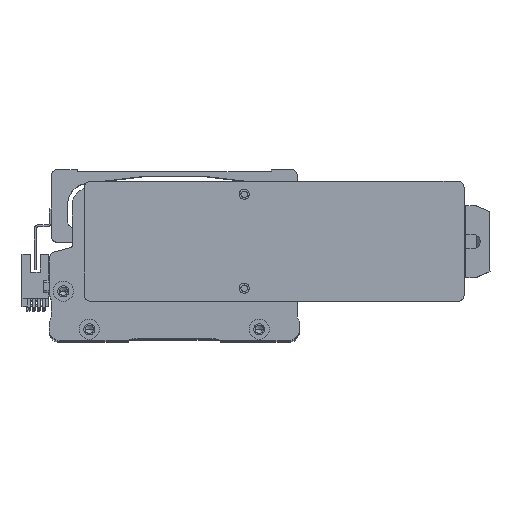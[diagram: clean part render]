
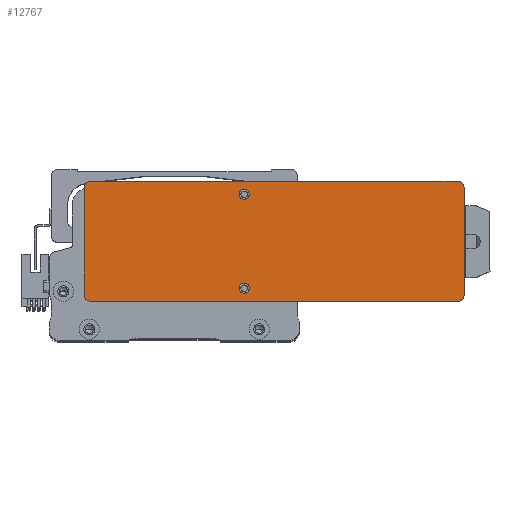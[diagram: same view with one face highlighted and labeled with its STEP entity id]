
A CAD part, top view. The second image highlights one B-rep face of the part: STEP entity #12767.
In plain terms, the highlighted planar face has unit normal (0, 0, 1) as drawn and (0, 0, -1) by its records, which use the part's own axes.
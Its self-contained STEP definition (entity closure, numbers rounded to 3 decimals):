
#461 = DIRECTION ( 'NONE',  ( 0., 0., -1. ) ) ;
#639 = ORIENTED_EDGE ( 'NONE', *, *, #70633, .T. ) ;
#2845 = DIRECTION ( 'NONE',  ( 0., 0., -1. ) ) ;
#2888 = DIRECTION ( 'NONE',  ( 0., 0., -1. ) ) ;
#5225 = CIRCLE ( 'NONE', #78637, 2.5 ) ;
#5701 = FACE_OUTER_BOUND ( 'NONE', #39171, .T. ) ;
#6111 = VERTEX_POINT ( 'NONE', #49467 ) ;
#6558 = DIRECTION ( 'NONE',  ( 0., 1., 0. ) ) ;
#7228 = EDGE_CURVE ( 'NONE', #48599, #68875, #5225, .T. ) ;
#8513 = DIRECTION ( 'NONE',  ( 0., 0., 1. ) ) ;
#9581 = VECTOR ( 'NONE', #6558, 1000. ) ;
#9917 = AXIS2_PLACEMENT_3D ( 'NONE', #48270, #11852, #54409 ) ;
#10950 = DIRECTION ( 'NONE',  ( 1., 0., 0. ) ) ;
#11599 = ORIENTED_EDGE ( 'NONE', *, *, #40316, .F. ) ;
#11852 = DIRECTION ( 'NONE',  ( 0., 0., -1. ) ) ;
#12516 = CARTESIAN_POINT ( 'NONE',  ( 95., 27., 0. ) ) ;
#12767 = ADVANCED_FACE ( 'NONE', ( #21786, #5701, #54203 ), #32641, .F. ) ;
#12774 = VECTOR ( 'NONE', #10950, 1000. ) ;
#15240 = ORIENTED_EDGE ( 'NONE', *, *, #61175, .F. ) ;
#15245 = CIRCLE ( 'NONE', #47394, 3. ) ;
#15391 = CIRCLE ( 'NONE', #28404, 2.5 ) ;
#15535 = CARTESIAN_POINT ( 'NONE',  ( -15., 23.5, 0. ) ) ;
#17605 = VECTOR ( 'NONE', #50033, 1000. ) ;
#20453 = CARTESIAN_POINT ( 'NONE',  ( 0., 0., 0. ) ) ;
#21586 = DIRECTION ( 'NONE',  ( -1., 0., 0. ) ) ;
#21786 = FACE_BOUND ( 'NONE', #39158, .T. ) ;
#21889 = CARTESIAN_POINT ( 'NONE',  ( 95., 30., 0. ) ) ;
#22412 = EDGE_CURVE ( 'NONE', #35638, #23808, #61278, .T. ) ;
#22814 = ORIENTED_EDGE ( 'NONE', *, *, #7228, .F. ) ;
#23536 = ORIENTED_EDGE ( 'NONE', *, *, #54452, .T. ) ;
#23808 = VERTEX_POINT ( 'NONE', #73531 ) ;
#24039 = EDGE_CURVE ( 'NONE', #37557, #45572, #53276, .T. ) ;
#24330 = ORIENTED_EDGE ( 'NONE', *, *, #35613, .F. ) ;
#24568 = DIRECTION ( 'NONE',  ( 0., 0., -1. ) ) ;
#25423 = EDGE_CURVE ( 'NONE', #45805, #37979, #58063, .T. ) ;
#25459 = AXIS2_PLACEMENT_3D ( 'NONE', #39225, #2845, #45325 ) ;
#28404 = AXIS2_PLACEMENT_3D ( 'NONE', #39286, #2888, #45380 ) ;
#30752 = ORIENTED_EDGE ( 'NONE', *, *, #25423, .F. ) ;
#30820 = CARTESIAN_POINT ( 'NONE',  ( -92., -27., 0. ) ) ;
#31148 = CARTESIAN_POINT ( 'NONE',  ( -17.5, 23.5, 0. ) ) ;
#31196 = ORIENTED_EDGE ( 'NONE', *, *, #22412, .F. ) ;
#31285 = CIRCLE ( 'NONE', #68738, 3. ) ;
#31614 = CARTESIAN_POINT ( 'NONE',  ( -95., -30., 0. ) ) ;
#31843 = VERTEX_POINT ( 'NONE', #74939 ) ;
#32500 = DIRECTION ( 'NONE',  ( 0., 0., -1. ) ) ;
#32641 = PLANE ( 'NONE',  #63469 ) ;
#33589 = EDGE_CURVE ( 'NONE', #45572, #37557, #15391, .T. ) ;
#35613 = EDGE_CURVE ( 'NONE', #6111, #76987, #53705, .T. ) ;
#35638 = VERTEX_POINT ( 'NONE', #46609 ) ;
#36696 = CIRCLE ( 'NONE', #9917, 2.5 ) ;
#36849 = CARTESIAN_POINT ( 'NONE',  ( -15., -23.5, 0. ) ) ;
#36943 = DIRECTION ( 'NONE',  ( 1., 0., 0. ) ) ;
#37305 = AXIS2_PLACEMENT_3D ( 'NONE', #15535, #58018, #21586 ) ;
#37557 = VERTEX_POINT ( 'NONE', #31148 ) ;
#37979 = VERTEX_POINT ( 'NONE', #12516 ) ;
#39158 = EDGE_LOOP ( 'NONE', ( #63058, #66422 ) ) ;
#39171 = EDGE_LOOP ( 'NONE', ( #30752, #639, #31196, #76117, #11599, #23536, #24330, #75586 ) ) ;
#39225 = CARTESIAN_POINT ( 'NONE',  ( 92., 27., 0. ) ) ;
#39286 = CARTESIAN_POINT ( 'NONE',  ( -15., 23.5, 0. ) ) ;
#40243 = DIRECTION ( 'NONE',  ( -1., 0., 0. ) ) ;
#40316 = EDGE_CURVE ( 'NONE', #53401, #31843, #49950, .T. ) ;
#41246 = CARTESIAN_POINT ( 'NONE',  ( 95., -30., 0. ) ) ;
#42027 = AXIS2_PLACEMENT_3D ( 'NONE', #61060, #24568, #67215 ) ;
#42979 = DIRECTION ( 'NONE',  ( -1., 0., 0. ) ) ;
#44942 = CARTESIAN_POINT ( 'NONE',  ( -12.5, 23.5, 0. ) ) ;
#45325 = DIRECTION ( 'NONE',  ( 1., 0., 0. ) ) ;
#45380 = DIRECTION ( 'NONE',  ( -1., 0., 0. ) ) ;
#45572 = VERTEX_POINT ( 'NONE', #44942 ) ;
#45805 = VERTEX_POINT ( 'NONE', #77693 ) ;
#46609 = CARTESIAN_POINT ( 'NONE',  ( -92., -30., 0. ) ) ;
#47394 = AXIS2_PLACEMENT_3D ( 'NONE', #30820, #73402, #36943 ) ;
#48270 = CARTESIAN_POINT ( 'NONE',  ( -15., -23.5, 0. ) ) ;
#48554 = EDGE_CURVE ( 'NONE', #6111, #37979, #58056, .T. ) ;
#48599 = VERTEX_POINT ( 'NONE', #51504 ) ;
#49467 = CARTESIAN_POINT ( 'NONE',  ( 92., 30., 0. ) ) ;
#49950 = LINE ( 'NONE', #31614, #17605 ) ;
#50033 = DIRECTION ( 'NONE',  ( 0., -1., 0. ) ) ;
#51076 = DIRECTION ( 'NONE',  ( 1., 0., 0. ) ) ;
#51259 = CARTESIAN_POINT ( 'NONE',  ( -92., 30., 0. ) ) ;
#51504 = CARTESIAN_POINT ( 'NONE',  ( -12.5, -23.5, 0. ) ) ;
#53276 = CIRCLE ( 'NONE', #37305, 2.5 ) ;
#53401 = VERTEX_POINT ( 'NONE', #74226 ) ;
#53705 = LINE ( 'NONE', #21889, #66087 ) ;
#54203 = FACE_BOUND ( 'NONE', #77252, .T. ) ;
#54409 = DIRECTION ( 'NONE',  ( -1., 0., 0. ) ) ;
#54452 = EDGE_CURVE ( 'NONE', #53401, #76987, #67565, .T. ) ;
#54950 = CARTESIAN_POINT ( 'NONE',  ( -17.5, -23.5, 0. ) ) ;
#58018 = DIRECTION ( 'NONE',  ( 0., 0., -1. ) ) ;
#58056 = CIRCLE ( 'NONE', #25459, 3. ) ;
#58063 = LINE ( 'NONE', #61576, #9581 ) ;
#61060 = CARTESIAN_POINT ( 'NONE',  ( -92., 27., 0. ) ) ;
#61175 = EDGE_CURVE ( 'NONE', #68875, #48599, #36696, .T. ) ;
#61278 = LINE ( 'NONE', #41246, #12774 ) ;
#61576 = CARTESIAN_POINT ( 'NONE',  ( 95., -30., 0. ) ) ;
#63058 = ORIENTED_EDGE ( 'NONE', *, *, #24039, .F. ) ;
#63469 = AXIS2_PLACEMENT_3D ( 'NONE', #20453, #8513, #51076 ) ;
#64936 = EDGE_CURVE ( 'NONE', #35638, #31843, #15245, .T. ) ;
#66087 = VECTOR ( 'NONE', #40243, 1000. ) ;
#66422 = ORIENTED_EDGE ( 'NONE', *, *, #33589, .F. ) ;
#67215 = DIRECTION ( 'NONE',  ( 1., 0., 0. ) ) ;
#67565 = CIRCLE ( 'NONE', #42027, 3. ) ;
#68738 = AXIS2_PLACEMENT_3D ( 'NONE', #68986, #32500, #75080 ) ;
#68875 = VERTEX_POINT ( 'NONE', #54950 ) ;
#68986 = CARTESIAN_POINT ( 'NONE',  ( 92., -27., 0. ) ) ;
#70633 = EDGE_CURVE ( 'NONE', #45805, #23808, #31285, .T. ) ;
#73402 = DIRECTION ( 'NONE',  ( 0., 0., -1. ) ) ;
#73531 = CARTESIAN_POINT ( 'NONE',  ( 92., -30., 0. ) ) ;
#74226 = CARTESIAN_POINT ( 'NONE',  ( -95., 27., 0. ) ) ;
#74939 = CARTESIAN_POINT ( 'NONE',  ( -95., -27., 0. ) ) ;
#75080 = DIRECTION ( 'NONE',  ( 1., 0., 0. ) ) ;
#75586 = ORIENTED_EDGE ( 'NONE', *, *, #48554, .T. ) ;
#76117 = ORIENTED_EDGE ( 'NONE', *, *, #64936, .T. ) ;
#76987 = VERTEX_POINT ( 'NONE', #51259 ) ;
#77252 = EDGE_LOOP ( 'NONE', ( #15240, #22814 ) ) ;
#77693 = CARTESIAN_POINT ( 'NONE',  ( 95., -27., 0. ) ) ;
#78637 = AXIS2_PLACEMENT_3D ( 'NONE', #36849, #461, #42979 ) ;
